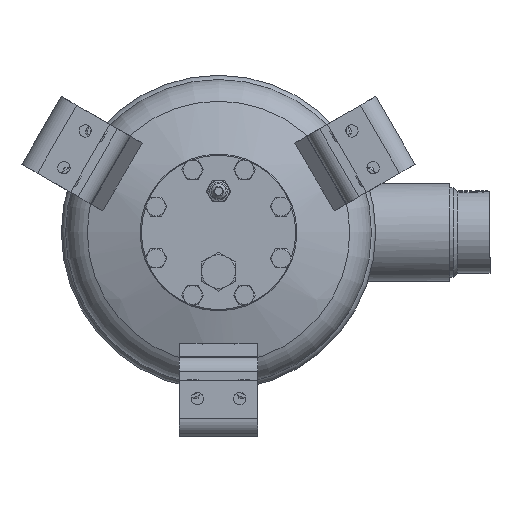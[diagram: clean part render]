
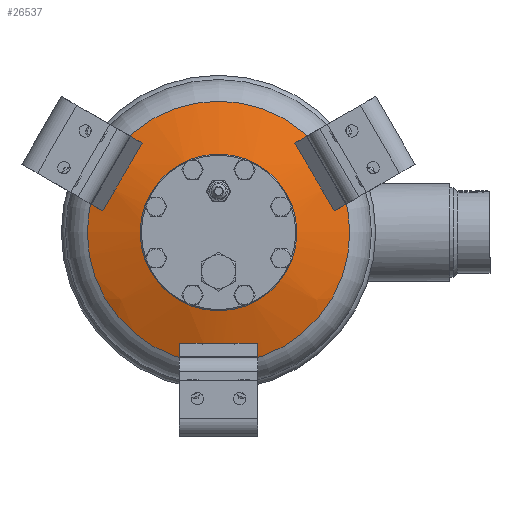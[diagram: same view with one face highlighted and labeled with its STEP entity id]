
A CAD part, front view. The second image highlights one B-rep face of the part: STEP entity #26537.
In plain terms, the highlighted spherical face has radius 279 mm.
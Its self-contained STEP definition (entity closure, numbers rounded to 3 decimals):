
#32=SPHERICAL_SURFACE('',#28695,279.);
#6428=FACE_BOUND('',#9718,.T.);
#6429=FACE_BOUND('',#9719,.T.);
#6430=FACE_BOUND('',#9720,.T.);
#6431=FACE_BOUND('',#9721,.T.);
#7906=FACE_OUTER_BOUND('',#9717,.T.);
#9717=EDGE_LOOP('',(#24121));
#9718=EDGE_LOOP('',(#24122));
#9719=EDGE_LOOP('',(#24123,#24124,#24125,#24126));
#9720=EDGE_LOOP('',(#24127,#24128,#24129,#24130));
#9721=EDGE_LOOP('',(#24131,#24132,#24133,#24134));
#10565=CIRCLE('',#28471,14.846);
#10566=CIRCLE('',#28473,14.846);
#10567=CIRCLE('',#28475,278.939);
#10570=CIRCLE('',#28480,278.991);
#10604=CIRCLE('',#28568,14.846);
#10605=CIRCLE('',#28570,14.846);
#10606=CIRCLE('',#28572,278.939);
#10609=CIRCLE('',#28577,278.991);
#10643=CIRCLE('',#28665,14.846);
#10644=CIRCLE('',#28667,14.846);
#10645=CIRCLE('',#28669,278.939);
#10648=CIRCLE('',#28674,278.991);
#10657=CIRCLE('',#28694,117.235);
#10658=CIRCLE('',#28696,57.868);
#12910=VERTEX_POINT('',#52969);
#12911=VERTEX_POINT('',#52970);
#12914=VERTEX_POINT('',#52978);
#12915=VERTEX_POINT('',#52979);
#13005=VERTEX_POINT('',#53311);
#13006=VERTEX_POINT('',#53312);
#13009=VERTEX_POINT('',#53320);
#13010=VERTEX_POINT('',#53321);
#13100=VERTEX_POINT('',#53653);
#13101=VERTEX_POINT('',#53654);
#13104=VERTEX_POINT('',#53662);
#13105=VERTEX_POINT('',#53663);
#13126=VERTEX_POINT('',#53734);
#13127=VERTEX_POINT('',#53737);
#16545=EDGE_CURVE('',#12910,#12911,#10565,.T.);
#16549=EDGE_CURVE('',#12914,#12915,#10566,.T.);
#16553=EDGE_CURVE('',#12911,#12914,#10567,.T.);
#16560=EDGE_CURVE('',#12915,#12910,#10570,.T.);
#16686=EDGE_CURVE('',#13005,#13006,#10604,.T.);
#16690=EDGE_CURVE('',#13009,#13010,#10605,.T.);
#16694=EDGE_CURVE('',#13006,#13009,#10606,.T.);
#16701=EDGE_CURVE('',#13010,#13005,#10609,.T.);
#16827=EDGE_CURVE('',#13100,#13101,#10643,.T.);
#16831=EDGE_CURVE('',#13104,#13105,#10644,.T.);
#16835=EDGE_CURVE('',#13101,#13104,#10645,.T.);
#16842=EDGE_CURVE('',#13105,#13100,#10648,.T.);
#16867=EDGE_CURVE('',#13126,#13126,#10657,.T.);
#16868=EDGE_CURVE('',#13127,#13127,#10658,.T.);
#24121=ORIENTED_EDGE('',*,*,#16867,.T.);
#24122=ORIENTED_EDGE('',*,*,#16868,.T.);
#24123=ORIENTED_EDGE('',*,*,#16553,.T.);
#24124=ORIENTED_EDGE('',*,*,#16549,.T.);
#24125=ORIENTED_EDGE('',*,*,#16560,.T.);
#24126=ORIENTED_EDGE('',*,*,#16545,.T.);
#24127=ORIENTED_EDGE('',*,*,#16694,.T.);
#24128=ORIENTED_EDGE('',*,*,#16690,.T.);
#24129=ORIENTED_EDGE('',*,*,#16701,.T.);
#24130=ORIENTED_EDGE('',*,*,#16686,.T.);
#24131=ORIENTED_EDGE('',*,*,#16835,.T.);
#24132=ORIENTED_EDGE('',*,*,#16831,.T.);
#24133=ORIENTED_EDGE('',*,*,#16842,.T.);
#24134=ORIENTED_EDGE('',*,*,#16827,.T.);
#26537=ADVANCED_FACE('',(#7906,#6428,#6429,#6430,#6431),#32,.T.);
#28471=AXIS2_PLACEMENT_3D('',#52971,#33804,#33805);
#28473=AXIS2_PLACEMENT_3D('',#52980,#33811,#33812);
#28475=AXIS2_PLACEMENT_3D('',#52987,#33818,#33819);
#28480=AXIS2_PLACEMENT_3D('',#53000,#33832,#33833);
#28568=AXIS2_PLACEMENT_3D('',#53313,#34076,#34077);
#28570=AXIS2_PLACEMENT_3D('',#53322,#34083,#34084);
#28572=AXIS2_PLACEMENT_3D('',#53329,#34090,#34091);
#28577=AXIS2_PLACEMENT_3D('',#53342,#34104,#34105);
#28665=AXIS2_PLACEMENT_3D('',#53655,#34348,#34349);
#28667=AXIS2_PLACEMENT_3D('',#53664,#34355,#34356);
#28669=AXIS2_PLACEMENT_3D('',#53671,#34362,#34363);
#28674=AXIS2_PLACEMENT_3D('',#53684,#34376,#34377);
#28694=AXIS2_PLACEMENT_3D('',#53735,#34432,#34433);
#28695=AXIS2_PLACEMENT_3D('',#53736,#34434,#34435);
#28696=AXIS2_PLACEMENT_3D('',#53738,#34436,#34437);
#33804=DIRECTION('center_axis',(-0.324,0.927,-0.187));
#33805=DIRECTION('ref_axis',(0.,-0.198,-0.98));
#33811=DIRECTION('center_axis',(-0.324,0.927,-0.187));
#33812=DIRECTION('ref_axis',(0.,-0.198,-0.98));
#33818=DIRECTION('center_axis',(-0.803,-0.375,-0.464));
#33819=DIRECTION('ref_axis',(0.,-0.778,0.629));
#33832=DIRECTION('center_axis',(0.803,0.375,0.464));
#33833=DIRECTION('ref_axis',(0.,0.778,-0.629));
#34076=DIRECTION('center_axis',(0.324,0.927,-0.187));
#34077=DIRECTION('ref_axis',(0.,-0.198,-0.98));
#34083=DIRECTION('center_axis',(0.324,0.927,-0.187));
#34084=DIRECTION('ref_axis',(0.,-0.198,-0.98));
#34090=DIRECTION('center_axis',(0.803,-0.375,-0.464));
#34091=DIRECTION('ref_axis',(0.,-0.778,0.629));
#34104=DIRECTION('center_axis',(-0.803,0.375,0.464));
#34105=DIRECTION('ref_axis',(0.,0.778,-0.629));
#34348=DIRECTION('center_axis',(0.,0.927,
0.375));
#34349=DIRECTION('ref_axis',(0.,0.375,-0.927));
#34355=DIRECTION('center_axis',(0.,0.927,
0.375));
#34356=DIRECTION('ref_axis',(0.,0.375,-0.927));
#34362=DIRECTION('center_axis',(0.,-0.375,
0.927));
#34363=DIRECTION('ref_axis',(0.,0.927,0.375));
#34376=DIRECTION('center_axis',(0.,0.375,
-0.927));
#34377=DIRECTION('ref_axis',(0.,-0.927,-0.375));
#34432=DIRECTION('center_axis',(0.,-1.,0.));
#34433=DIRECTION('ref_axis',(-1.,0.,0.));
#34434=DIRECTION('center_axis',(0.,0.,-1.));
#34435=DIRECTION('ref_axis',(-1.,0.,0.));
#34436=DIRECTION('center_axis',(0.,1.,0.));
#34437=DIRECTION('ref_axis',(0.,0.,-1.));
#52969=CARTESIAN_POINT('',(99.48,-65.693,40.479));
#52970=CARTESIAN_POINT('',(92.543,-68.69,37.658));
#52971=CARTESIAN_POINT('Origin',(90.385,-66.511,52.184));
#52978=CARTESIAN_POINT('',(78.885,-68.69,61.316));
#52979=CARTESIAN_POINT('',(84.796,-65.693,65.913));
#52980=CARTESIAN_POINT('Origin',(90.385,-66.511,52.184));
#52987=CARTESIAN_POINT('Origin',(-4.671,189.628,-2.697));
#53000=CARTESIAN_POINT('Origin',(1.753,192.625,1.012));
#53311=CARTESIAN_POINT('',(-84.796,-65.693,65.913));
#53312=CARTESIAN_POINT('',(-78.885,-68.69,61.316));
#53313=CARTESIAN_POINT('Origin',(-90.385,-66.511,52.184));
#53320=CARTESIAN_POINT('',(-92.543,-68.69,37.658));
#53321=CARTESIAN_POINT('',(-99.48,-65.693,40.479));
#53322=CARTESIAN_POINT('Origin',(-90.385,-66.511,52.184));
#53329=CARTESIAN_POINT('Origin',(4.671,189.628,-2.697));
#53342=CARTESIAN_POINT('Origin',(-1.753,192.625,1.012));
#53653=CARTESIAN_POINT('',(-14.684,-65.693,-106.391));
#53654=CARTESIAN_POINT('',(-13.658,-68.69,-98.974));
#53655=CARTESIAN_POINT('Origin',(0.,-66.511,
-104.367));
#53662=CARTESIAN_POINT('',(13.658,-68.69,-98.974));
#53663=CARTESIAN_POINT('',(14.684,-65.693,-106.391));
#53664=CARTESIAN_POINT('Origin',(0.,-66.511,
-104.367));
#53671=CARTESIAN_POINT('Origin',(0.,189.628,
5.393));
#53684=CARTESIAN_POINT('Origin',(0.,192.625,
-2.024));
#53734=CARTESIAN_POINT('',(-117.235,-61.367,0.));
#53735=CARTESIAN_POINT('Origin',(0.,-61.367,
0.));
#53736=CARTESIAN_POINT('Origin',(0.,191.807,
0.));
#53737=CARTESIAN_POINT('',(57.868,-81.126,0.));
#53738=CARTESIAN_POINT('Origin',(0.,-81.126,0.));
